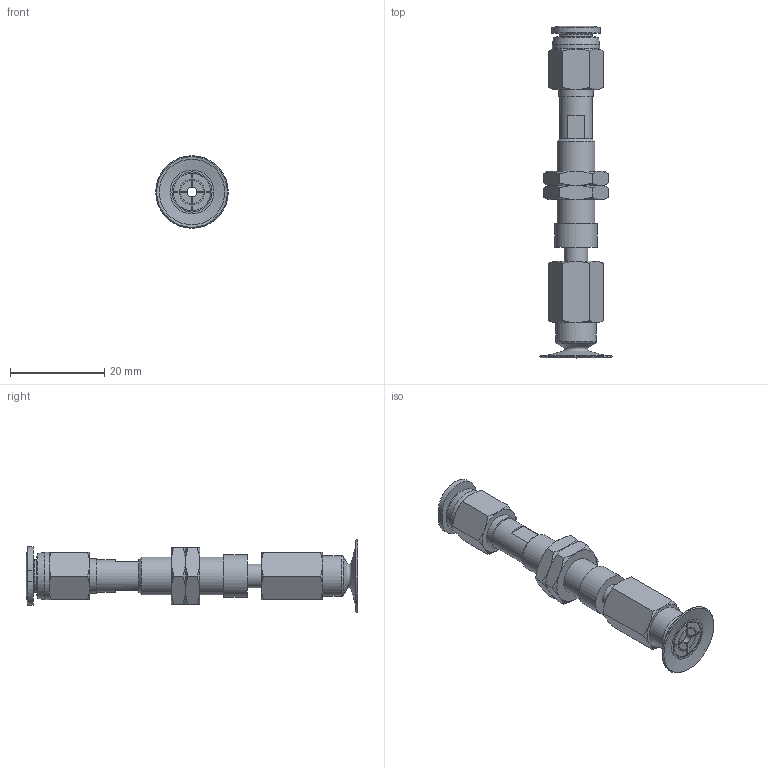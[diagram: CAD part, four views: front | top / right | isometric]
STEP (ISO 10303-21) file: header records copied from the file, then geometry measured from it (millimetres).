
FILE_DESCRIPTION(('STEP AP203'),'1');
FILE_NAME('-O.stp','2025-08-26T08:50:40',(' '),(' '),'Spatial InterOp 3D',' ',' ');
FILE_SCHEMA(('CONFIG_CONTROL_DESIGN'));
Length unit declared in the file: millimetre
Products named in the file (7): BNABPATS-15B-3-※-O; ADAPTER; NAPATS-10A-3--M; NAPATS-10A-3--F; Nut-10A-S; BPAG-15B-※_3D; PC-C_06-M5
Assembly tree (7 placements, depth 2):
  BNABPATS-15B-3-※-O
    ADAPTER
    NAPATS-10A-3--M
    NAPATS-10A-3--F
    Nut-10A-S  x2
    BPAG-15B-※_3D
    PC-C_06-M5
Bounding box: 15.4 x 70.48 x 15.4 mm (x, y, z)
Volume: 3405.3 mm3; surface area: 5260.3 mm2
Topology: 6 solids, 9 shells, 206 faces, 447 edges, 271 vertices
Faces by surface type: plane 78, cone 71, cylinder 38, torus 12, bspline 4, revolution 3
Full cylindrical faces by diameter (mm): 2 x3, 4 x4, 4.134 x1, 5 x3, 6 x2, 7 x2, 7.188 x2, 7.4 x1, 8 x1, 8.2 x1, 8.5 x1, 8.7 x1, 9 x1, 10 x1
Entity records: 5440 total; most frequent: CARTESIAN_POINT 1473, DIRECTION 755, ORIENTED_EDGE 668, EDGE_CURVE 336, AXIS2_PLACEMENT_3D 326, EDGE_LOOP 258, VERTEX_POINT 230, FACE_OUTER_BOUND 158
